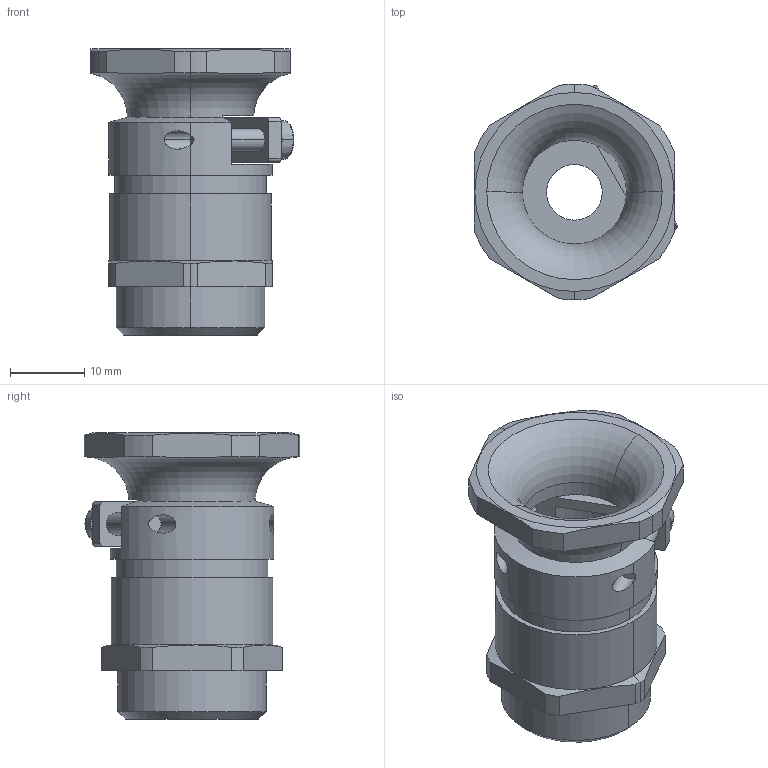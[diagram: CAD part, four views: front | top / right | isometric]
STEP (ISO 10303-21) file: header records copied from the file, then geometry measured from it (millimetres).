
FILE_DESCRIPTION (( 'STEP AP203' ), '1' );
FILE_NAME ('23.613M20.STEP', '2006-08-01T10:48:02', ( ' ' ), ( '' ), 'SwSTEP 2.0', 'SolidWorks 2005278', '' );
FILE_SCHEMA (( 'CONFIG_CONTROL_DESIGN' ));
Length unit declared in the file: millimetre
Products named in the file (1): 23.613M20
Bounding box: 27.42 x 29 x 38.5 mm (x, y, z)
Volume: 7962.3 mm3; surface area: 5884.2 mm2
Topology: 1 solids, 1 shells, 150 faces, 396 edges, 257 vertices
Faces by surface type: plane 84, cylinder 43, cone 13, torus 10
Entity records: 4926 total; most frequent: CARTESIAN_POINT 1080, ORIENTED_EDGE 792, DIRECTION 791, EDGE_CURVE 396, AXIS2_PLACEMENT_3D 286, VERTEX_POINT 257, VECTOR 219, LINE 219
